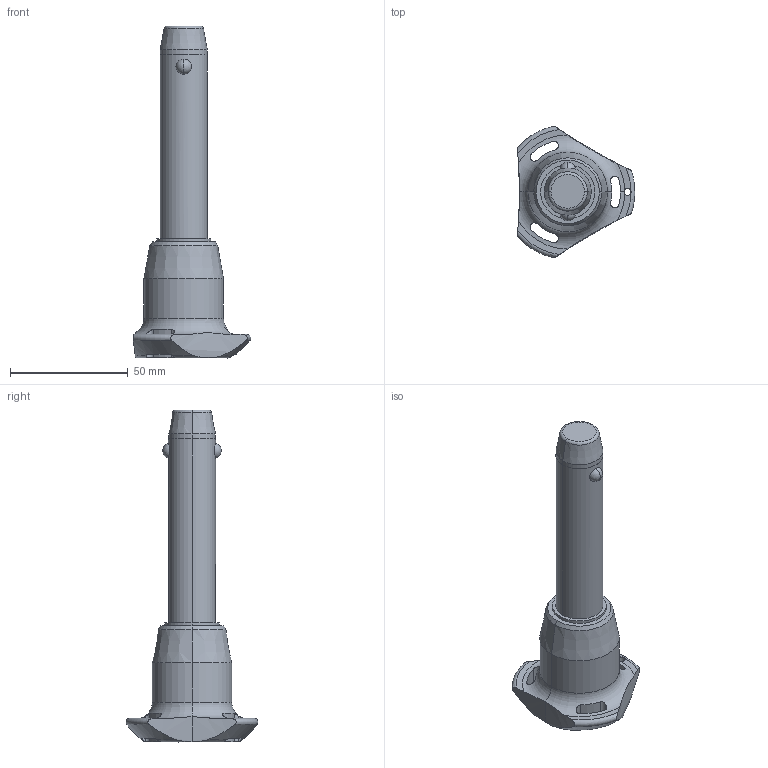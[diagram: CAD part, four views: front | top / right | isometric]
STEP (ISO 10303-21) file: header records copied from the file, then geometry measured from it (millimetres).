
FILE_DESCRIPTION (( 'STEP AP203' ), '1' );
FILE_NAME ('QR1736.M20-070-T.step', '2025-11-13T12:11:16', ( '' ), ( '' ), 'SwSTEP 2.0', 'SolidWorks 2019', '' );
FILE_SCHEMA (( 'CONFIG_CONTROL_DESIGN' ));
Length unit declared in the file: millimetre
Products named in the file (1): QR1736.M20-070-T
Bounding box: 50.04 x 56.02 x 141.2 mm (x, y, z)
Volume: 75766.8 mm3; surface area: 15365.9 mm2
Topology: 1 solids, 1 shells, 68 faces, 182 edges, 115 vertices
Faces by surface type: cylinder 32, cone 14, torus 11, sphere 6, plane 5
Entity records: 2938 total; most frequent: CARTESIAN_POINT 1192, ORIENTED_EDGE 364, DIRECTION 345, EDGE_CURVE 182, AXIS2_PLACEMENT_3D 154, VERTEX_POINT 115, CIRCLE 85, EDGE_LOOP 75
